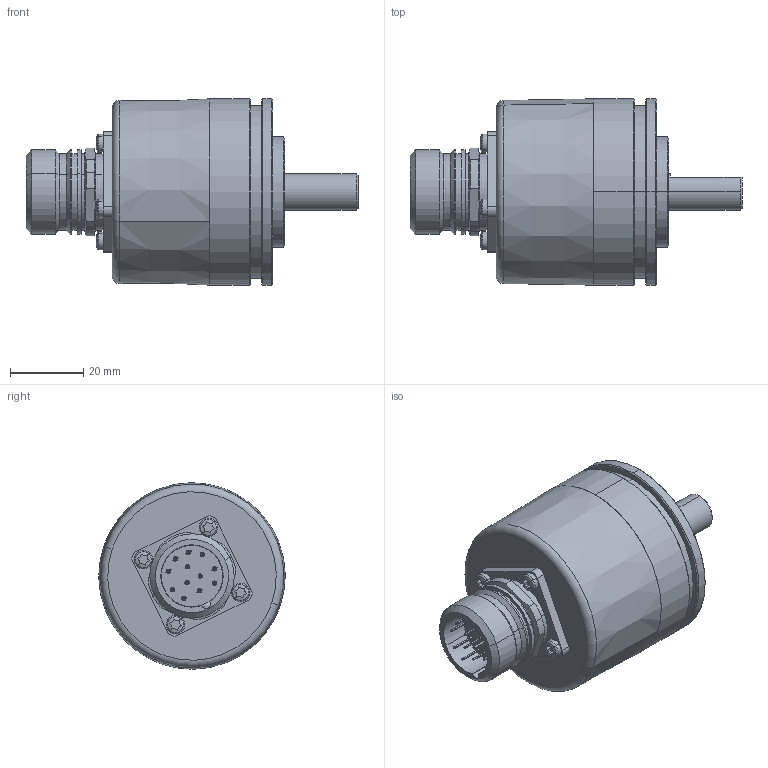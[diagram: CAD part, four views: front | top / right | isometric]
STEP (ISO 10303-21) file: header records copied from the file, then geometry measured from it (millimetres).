
FILE_DESCRIPTION (( 'STEP AP214' ), '1' );
FILE_NAME ('5000.63X7.XXXX.STEP', '2011-01-05T08:51:21', ( 'admin' ), ( 'Fritz Kübler GmbH' ), 'SwSTEP 2.0', 'SolidWorks 2009', '' );
FILE_SCHEMA (( 'AUTOMOTIVE_DESIGN' ));
Length unit declared in the file: millimetre
Products named in the file (1): 5000.63X7.XXXX
Bounding box: 90.5 x 50.8 x 50.8 mm (x, y, z)
Surface area: 18733.8 mm2 (no closed solid volume)
Topology: 0 solids, 32 shells, 313 faces, 890 edges, 574 vertices
Faces by surface type: cylinder 113, plane 87, sphere 52, cone 33, torus 28
Entity records: 13866 total; most frequent: CARTESIAN_POINT 2370, DIRECTION 1896, ORIENTED_EDGE 1455, AXIS2_PLACEMENT_3D 818, EDGE_CURVE 814, VERTEX_POINT 544, CIRCLE 504, EDGE_LOOP 384
